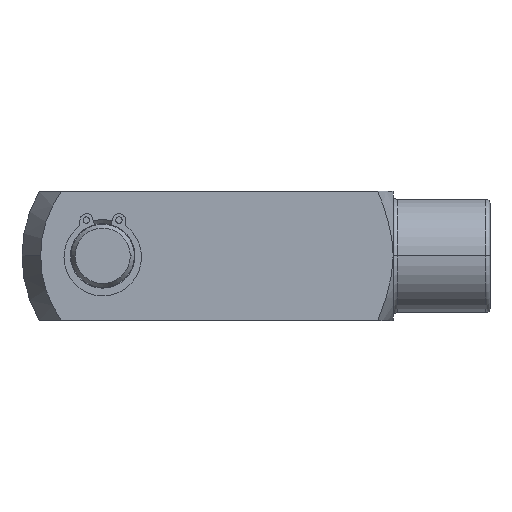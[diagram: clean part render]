
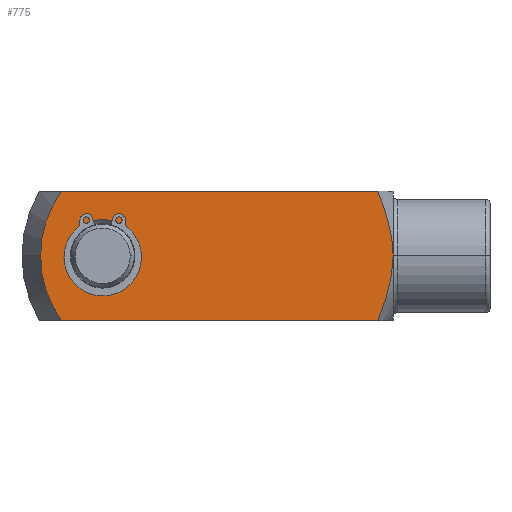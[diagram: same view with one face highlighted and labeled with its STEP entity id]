
A CAD part, top view. The second image highlights one B-rep face of the part: STEP entity #775.
In plain terms, the highlighted planar face has unit normal (0, 0, 1).
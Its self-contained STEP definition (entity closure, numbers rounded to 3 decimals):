
#763 = EDGE_LOOP ( 'NONE', ( #765, #841, #837, #838, #834, #820 ) ) ;
#765 = ORIENTED_EDGE ( 'NONE', *, *, #774, .F. ) ;
#766 = VERTEX_POINT ( 'NONE', #1342 ) ;
#770 = EDGE_CURVE ( 'NONE', #2449, #2442, #1397, .T. ) ;
#772 = ORIENTED_EDGE ( 'NONE', *, *, #2443, .T. ) ;
#773 = ORIENTED_EDGE ( 'NONE', *, *, #770, .T. ) ;
#774 = EDGE_CURVE ( 'NONE', #766, #840, #1392, .T. ) ;
#775 = ADVANCED_FACE ( 'NONE', ( #1388, #1387 ), #1386, .T. ) ;
#776 = EDGE_LOOP ( 'NONE', ( #772, #773 ) ) ;
#820 = ORIENTED_EDGE ( 'NONE', *, *, #825, .F. ) ;
#821 = EDGE_CURVE ( 'NONE', #833, #824, #1435, .T. ) ;
#824 = VERTEX_POINT ( 'NONE', #1434 ) ;
#825 = EDGE_CURVE ( 'NONE', #840, #833, #1483, .T. ) ;
#833 = VERTEX_POINT ( 'NONE', #1523 ) ;
#834 = ORIENTED_EDGE ( 'NONE', *, *, #821, .F. ) ;
#837 = ORIENTED_EDGE ( 'NONE', *, *, #2434, .T. ) ;
#838 = ORIENTED_EDGE ( 'NONE', *, *, #839, .T. ) ;
#839 = EDGE_CURVE ( 'NONE', #2427, #824, #1520, .T. ) ;
#840 = VERTEX_POINT ( 'NONE', #1516 ) ;
#841 = ORIENTED_EDGE ( 'NONE', *, *, #842, .T. ) ;
#842 = EDGE_CURVE ( 'NONE', #766, #2431, #1515, .T. ) ;
#1342 = CARTESIAN_POINT ( 'NONE',  ( -53.11, 8., 8. ) ) ;
#1382 = DIRECTION ( 'NONE',  ( 1., 0., 0. ) ) ;
#1383 = DIRECTION ( 'NONE',  ( 0., 0., 1. ) ) ;
#1384 = CARTESIAN_POINT ( 'NONE',  ( -58., -8., 8. ) ) ;
#1385 = AXIS2_PLACEMENT_3D ( 'NONE', #1384, #1383, #1382 ) ;
#1386 = PLANE ( 'NONE',  #1385 ) ;
#1387 = FACE_OUTER_BOUND ( 'NONE', #763, .T. ) ;
#1388 = FACE_BOUND ( 'NONE', #776, .T. ) ;
#1389 = DIRECTION ( 'NONE',  ( 1., 0., 0. ) ) ;
#1390 = VECTOR ( 'NONE', #1389, 1000. ) ;
#1391 = CARTESIAN_POINT ( 'NONE',  ( -58., 8., 8. ) ) ;
#1392 = LINE ( 'NONE', #1391, #1390 ) ;
#1394 = DIRECTION ( 'NONE',  ( 1., 0., 0. ) ) ;
#1395 = DIRECTION ( 'NONE',  ( 0., 0., -1. ) ) ;
#1396 = AXIS2_PLACEMENT_3D ( 'NONE', #1401, #1395, #1394 ) ;
#1397 = CIRCLE ( 'NONE', #1396, 4.5 ) ;
#1401 = CARTESIAN_POINT ( 'NONE',  ( -48., 0., 8. ) ) ;
#1434 = CARTESIAN_POINT ( 'NONE',  ( -13.913, -8., 8. ) ) ;
#1435 = B_SPLINE_CURVE_WITH_KNOTS ( 'NONE', 3,
 ( #1491, #1490, #1489, #1488, #1487, #1486 ),
 .UNSPECIFIED., .F., .F.,
 ( 4, 2, 4 ),
 ( 0.032, 0.036, 0.041 ),
 .UNSPECIFIED. ) ;
#1471 = CARTESIAN_POINT ( 'NONE',  ( -12., 0., 8. ) ) ;
#1472 = CARTESIAN_POINT ( 'NONE',  ( -12., 0.348, 8. ) ) ;
#1473 = CARTESIAN_POINT ( 'NONE',  ( -12.013, 0.697, 8. ) ) ;
#1474 = CARTESIAN_POINT ( 'NONE',  ( -12.065, 1.388, 8. ) ) ;
#1475 = CARTESIAN_POINT ( 'NONE',  ( -12.103, 1.731, 8. ) ) ;
#1476 = CARTESIAN_POINT ( 'NONE',  ( -12.251, 2.751, 8. ) ) ;
#1477 = CARTESIAN_POINT ( 'NONE',  ( -12.393, 3.422, 8. ) ) ;
#1478 = CARTESIAN_POINT ( 'NONE',  ( -12.917, 5.415, 8. ) ) ;
#1479 = CARTESIAN_POINT ( 'NONE',  ( -13.392, 6.723, 8. ) ) ;
#1480 = CARTESIAN_POINT ( 'NONE',  ( -13.913, 8., 8. ) ) ;
#1483 = B_SPLINE_CURVE_WITH_KNOTS ( 'NONE', 3,
 ( #1480, #1479, #1478, #1477, #1476, #1475, #1474, #1473, #1472, #1471 ),
 .UNSPECIFIED., .F., .F.,
 ( 4, 2, 2, 2, 4 ),
 ( 0.024, 0.028, 0.03, 0.031, 0.032 ),
 .UNSPECIFIED. ) ;
#1486 = CARTESIAN_POINT ( 'NONE',  ( -13.913, -8., 8. ) ) ;
#1487 = CARTESIAN_POINT ( 'NONE',  ( -13.39, -6.719, 8. ) ) ;
#1488 = CARTESIAN_POINT ( 'NONE',  ( -12.915, -5.409, 8. ) ) ;
#1489 = CARTESIAN_POINT ( 'NONE',  ( -12.217, -2.751, 8. ) ) ;
#1490 = CARTESIAN_POINT ( 'NONE',  ( -12., -1.396, 8. ) ) ;
#1491 = CARTESIAN_POINT ( 'NONE',  ( -12., 0., 8. ) ) ;
#1511 = DIRECTION ( 'NONE',  ( 1., 0., 0. ) ) ;
#1512 = DIRECTION ( 'NONE',  ( 0., 0., 1. ) ) ;
#1513 = CARTESIAN_POINT ( 'NONE',  ( -42., 0., 8. ) ) ;
#1514 = AXIS2_PLACEMENT_3D ( 'NONE', #1513, #1512, #1511 ) ;
#1515 = CIRCLE ( 'NONE', #1514, 13.691 ) ;
#1516 = CARTESIAN_POINT ( 'NONE',  ( -13.913, 8., 8. ) ) ;
#1517 = DIRECTION ( 'NONE',  ( 1., 0., 0. ) ) ;
#1518 = VECTOR ( 'NONE', #1517, 1000. ) ;
#1519 = CARTESIAN_POINT ( 'NONE',  ( -58., -8., 8. ) ) ;
#1520 = LINE ( 'NONE', #1519, #1518 ) ;
#1523 = CARTESIAN_POINT ( 'NONE',  ( -12., 0., 8. ) ) ;
#1883 = DIRECTION ( 'NONE',  ( 1., 0., 0. ) ) ;
#2113 = CARTESIAN_POINT ( 'NONE',  ( -53.11, -8., 8. ) ) ;
#2132 = DIRECTION ( 'NONE',  ( 0., 0., -1. ) ) ;
#2133 = CARTESIAN_POINT ( 'NONE',  ( -48., 0., 8. ) ) ;
#2134 = AXIS2_PLACEMENT_3D ( 'NONE', #2133, #2132, #1883 ) ;
#2135 = CIRCLE ( 'NONE', #2134, 4.5 ) ;
#2137 = CARTESIAN_POINT ( 'NONE',  ( -43.5, 0., 8. ) ) ;
#2149 = DIRECTION ( 'NONE',  ( 1., 0., 0. ) ) ;
#2150 = DIRECTION ( 'NONE',  ( 0., 0., 1. ) ) ;
#2151 = AXIS2_PLACEMENT_3D ( 'NONE', #2158, #2150, #2149 ) ;
#2152 = CIRCLE ( 'NONE', #2151, 13.691 ) ;
#2158 = CARTESIAN_POINT ( 'NONE',  ( -42., 0., 8. ) ) ;
#2159 = CARTESIAN_POINT ( 'NONE',  ( -55.691, 0., 8. ) ) ;
#2193 = CARTESIAN_POINT ( 'NONE',  ( -52.5, 0., 8. ) ) ;
#2427 = VERTEX_POINT ( 'NONE', #2113 ) ;
#2431 = VERTEX_POINT ( 'NONE', #2159 ) ;
#2434 = EDGE_CURVE ( 'NONE', #2431, #2427, #2152, .T. ) ;
#2442 = VERTEX_POINT ( 'NONE', #2137 ) ;
#2443 = EDGE_CURVE ( 'NONE', #2442, #2449, #2135, .T. ) ;
#2449 = VERTEX_POINT ( 'NONE', #2193 ) ;
